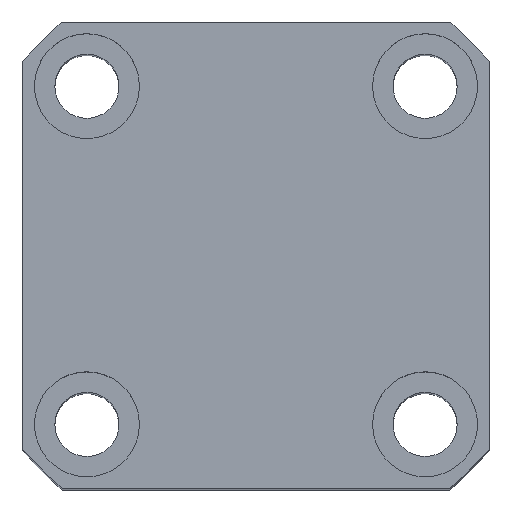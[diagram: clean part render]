
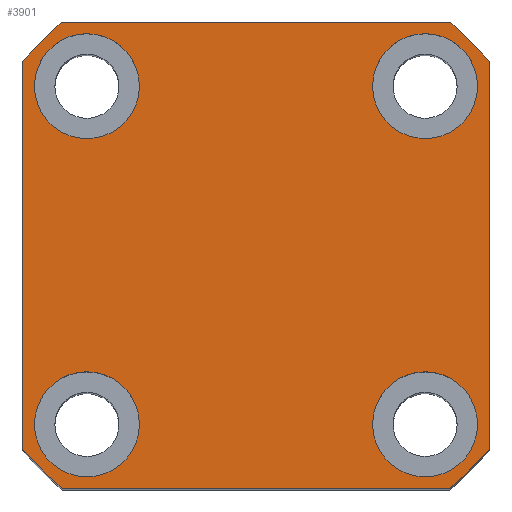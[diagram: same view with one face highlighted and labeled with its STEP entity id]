
A CAD part, top view. The second image highlights one B-rep face of the part: STEP entity #3901.
In plain terms, the highlighted planar face has unit normal (0, 0, 1).
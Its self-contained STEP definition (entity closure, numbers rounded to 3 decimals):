
#30 = EDGE_LOOP ( 'NONE', ( #7050, #4002, #10869, #6673, #14116, #13227, #10277, #10452 ) ) ;
#145 = AXIS2_PLACEMENT_3D ( 'NONE', #6800, #271, #1367 ) ;
#148 = DIRECTION ( 'NONE',  ( 1., 0., 0. ) ) ;
#271 = DIRECTION ( 'NONE',  ( 0., 0., 1. ) ) ;
#651 = CARTESIAN_POINT ( 'NONE',  ( -20., 29., 77.5 ) ) ;
#815 = CARTESIAN_POINT ( 'NONE',  ( 33.226, 40., 77.5 ) ) ;
#1367 = DIRECTION ( 'NONE',  ( 1., 0., 0. ) ) ;
#1674 = VERTEX_POINT ( 'NONE', #13961 ) ;
#1796 = VERTEX_POINT ( 'NONE', #2159 ) ;
#1919 = EDGE_CURVE ( 'NONE', #1674, #6936, #2082, .T. ) ;
#2082 = CIRCLE ( 'NONE', #3684, 52. ) ;
#2115 = EDGE_CURVE ( 'NONE', #6008, #6545, #7902, .T. ) ;
#2159 = CARTESIAN_POINT ( 'NONE',  ( -20., -29., 77.5 ) ) ;
#2246 = CARTESIAN_POINT ( 'NONE',  ( 29., 29., 77.5 ) ) ;
#2254 = AXIS2_PLACEMENT_3D ( 'NONE', #9962, #11073, #6592 ) ;
#2264 = EDGE_CURVE ( 'NONE', #1796, #4681, #7535, .T. ) ;
#2318 = FACE_BOUND ( 'NONE', #8102, .T. ) ;
#2394 = DIRECTION ( 'NONE',  ( 0., 0., 1. ) ) ;
#2474 = DIRECTION ( 'NONE',  ( 0., 0., 1. ) ) ;
#2490 = FACE_OUTER_BOUND ( 'NONE', #30, .T. ) ;
#2617 = CIRCLE ( 'NONE', #3081, 9. ) ;
#2656 = AXIS2_PLACEMENT_3D ( 'NONE', #13620, #12658, #4850 ) ;
#2672 = EDGE_CURVE ( 'NONE', #3773, #6008, #9100, .T. ) ;
#2713 = EDGE_CURVE ( 'NONE', #9240, #14058, #9440, .T. ) ;
#2776 = CIRCLE ( 'NONE', #2656, 9. ) ;
#2801 = CIRCLE ( 'NONE', #145, 52. ) ;
#2953 = CARTESIAN_POINT ( 'NONE',  ( -29., 29., 77.5 ) ) ;
#3014 = CIRCLE ( 'NONE', #11116, 9. ) ;
#3049 = DIRECTION ( 'NONE',  ( 1., 0., 0. ) ) ;
#3081 = AXIS2_PLACEMENT_3D ( 'NONE', #13776, #12586, #6106 ) ;
#3176 = CARTESIAN_POINT ( 'NONE',  ( -40., 33.226, 77.5 ) ) ;
#3356 = DIRECTION ( 'NONE',  ( 1., 0., 0. ) ) ;
#3450 = EDGE_CURVE ( 'NONE', #5843, #9478, #2617, .T. ) ;
#3496 = CARTESIAN_POINT ( 'NONE',  ( -40., -33.226, 77.5 ) ) ;
#3684 = AXIS2_PLACEMENT_3D ( 'NONE', #8952, #2394, #5783 ) ;
#3773 = VERTEX_POINT ( 'NONE', #5655 ) ;
#3813 = AXIS2_PLACEMENT_3D ( 'NONE', #14181, #6685, #148 ) ;
#3821 = CARTESIAN_POINT ( 'NONE',  ( -29., 29., 77.5 ) ) ;
#3901 = ADVANCED_FACE ( 'NONE', ( #2318, #4545, #9685, #11425, #2490 ), #13484, .T. ) ;
#4002 = ORIENTED_EDGE ( 'NONE', *, *, #9333, .T. ) ;
#4120 = VECTOR ( 'NONE', #6761, 1000. ) ;
#4151 = CIRCLE ( 'NONE', #4554, 52. ) ;
#4487 = CARTESIAN_POINT ( 'NONE',  ( -33.226, -40., 77.5 ) ) ;
#4545 = FACE_BOUND ( 'NONE', #7838, .T. ) ;
#4554 = AXIS2_PLACEMENT_3D ( 'NONE', #9028, #2474, #6796 ) ;
#4669 = EDGE_CURVE ( 'NONE', #11411, #11864, #13619, .T. ) ;
#4681 = VERTEX_POINT ( 'NONE', #10706 ) ;
#4771 = EDGE_CURVE ( 'NONE', #9478, #5843, #5216, .T. ) ;
#4850 = DIRECTION ( 'NONE',  ( 1., 0., 0. ) ) ;
#5100 = DIRECTION ( 'NONE',  ( 1., 0., 0. ) ) ;
#5204 = ORIENTED_EDGE ( 'NONE', *, *, #2264, .F. ) ;
#5216 = CIRCLE ( 'NONE', #2254, 9. ) ;
#5254 = EDGE_CURVE ( 'NONE', #6936, #3773, #10197, .T. ) ;
#5331 = VERTEX_POINT ( 'NONE', #13700 ) ;
#5410 = CARTESIAN_POINT ( 'NONE',  ( -33.226, -40., 77.5 ) ) ;
#5444 = ORIENTED_EDGE ( 'NONE', *, *, #4669, .F. ) ;
#5525 = EDGE_LOOP ( 'NONE', ( #8978, #13035 ) ) ;
#5655 = CARTESIAN_POINT ( 'NONE',  ( -33.226, 40., 77.5 ) ) ;
#5783 = DIRECTION ( 'NONE',  ( 1., 0., 0. ) ) ;
#5843 = VERTEX_POINT ( 'NONE', #13821 ) ;
#5864 = DIRECTION ( 'NONE',  ( 1., 0., 0. ) ) ;
#5868 = ORIENTED_EDGE ( 'NONE', *, *, #11757, .F. ) ;
#5904 = DIRECTION ( 'NONE',  ( 1., 0., 0. ) ) ;
#6008 = VERTEX_POINT ( 'NONE', #11819 ) ;
#6106 = DIRECTION ( 'NONE',  ( 1., 0., 0. ) ) ;
#6545 = VERTEX_POINT ( 'NONE', #3496 ) ;
#6592 = DIRECTION ( 'NONE',  ( 1., 0., 0. ) ) ;
#6673 = ORIENTED_EDGE ( 'NONE', *, *, #5254, .T. ) ;
#6685 = DIRECTION ( 'NONE',  ( 0., 0., 1. ) ) ;
#6740 = VERTEX_POINT ( 'NONE', #8600 ) ;
#6761 = DIRECTION ( 'NONE',  ( 1., 0., 0. ) ) ;
#6796 = DIRECTION ( 'NONE',  ( 1., 0., 0. ) ) ;
#6800 = CARTESIAN_POINT ( 'NONE',  ( 0., 0., 77.5 ) ) ;
#6901 = EDGE_CURVE ( 'NONE', #6545, #9240, #2801, .T. ) ;
#6936 = VERTEX_POINT ( 'NONE', #815 ) ;
#7033 = DIRECTION ( 'NONE',  ( -1., 0., 0. ) ) ;
#7050 = ORIENTED_EDGE ( 'NONE', *, *, #7450, .T. ) ;
#7265 = VECTOR ( 'NONE', #7033, 1000. ) ;
#7271 = EDGE_LOOP ( 'NONE', ( #5868, #5444 ) ) ;
#7373 = VERTEX_POINT ( 'NONE', #651 ) ;
#7385 = AXIS2_PLACEMENT_3D ( 'NONE', #2246, #10015, #3356 ) ;
#7450 = EDGE_CURVE ( 'NONE', #14058, #5331, #4151, .T. ) ;
#7524 = CARTESIAN_POINT ( 'NONE',  ( 20., 29., 77.5 ) ) ;
#7535 = CIRCLE ( 'NONE', #3813, 9. ) ;
#7627 = CIRCLE ( 'NONE', #14020, 9. ) ;
#7838 = EDGE_LOOP ( 'NONE', ( #5204, #10500 ) ) ;
#7888 = AXIS2_PLACEMENT_3D ( 'NONE', #11351, #9266, #5864 ) ;
#7902 = LINE ( 'NONE', #3176, #8238 ) ;
#8102 = EDGE_LOOP ( 'NONE', ( #11328, #9349 ) ) ;
#8146 = CARTESIAN_POINT ( 'NONE',  ( -33.226, 40., 77.5 ) ) ;
#8238 = VECTOR ( 'NONE', #8624, 1000. ) ;
#8600 = CARTESIAN_POINT ( 'NONE',  ( -38., 29., 77.5 ) ) ;
#8624 = DIRECTION ( 'NONE',  ( 0., -1., 0. ) ) ;
#8794 = CARTESIAN_POINT ( 'NONE',  ( 0., 0., 77.5 ) ) ;
#8840 = DIRECTION ( 'NONE',  ( 0., 0., 1. ) ) ;
#8952 = CARTESIAN_POINT ( 'NONE',  ( 0., 0., 77.5 ) ) ;
#8978 = ORIENTED_EDGE ( 'NONE', *, *, #10064, .F. ) ;
#9028 = CARTESIAN_POINT ( 'NONE',  ( 0., 0., 77.5 ) ) ;
#9066 = CARTESIAN_POINT ( 'NONE',  ( 0., 0., 77.5 ) ) ;
#9100 = CIRCLE ( 'NONE', #11729, 52. ) ;
#9240 = VERTEX_POINT ( 'NONE', #5410 ) ;
#9266 = DIRECTION ( 'NONE',  ( 0., 0., 1. ) ) ;
#9333 = EDGE_CURVE ( 'NONE', #5331, #1674, #10488, .T. ) ;
#9349 = ORIENTED_EDGE ( 'NONE', *, *, #4771, .F. ) ;
#9440 = LINE ( 'NONE', #4487, #4120 ) ;
#9478 = VERTEX_POINT ( 'NONE', #13614 ) ;
#9548 = CARTESIAN_POINT ( 'NONE',  ( 38., 29., 77.5 ) ) ;
#9685 = FACE_BOUND ( 'NONE', #5525, .T. ) ;
#9962 = CARTESIAN_POINT ( 'NONE',  ( 29., -29., 77.5 ) ) ;
#9999 = CARTESIAN_POINT ( 'NONE',  ( 33.226, -40., 77.5 ) ) ;
#10015 = DIRECTION ( 'NONE',  ( 0., 0., 1. ) ) ;
#10064 = EDGE_CURVE ( 'NONE', #7373, #6740, #7627, .T. ) ;
#10197 = LINE ( 'NONE', #8146, #7265 ) ;
#10277 = ORIENTED_EDGE ( 'NONE', *, *, #6901, .T. ) ;
#10452 = ORIENTED_EDGE ( 'NONE', *, *, #2713, .T. ) ;
#10488 = LINE ( 'NONE', #10946, #12363 ) ;
#10500 = ORIENTED_EDGE ( 'NONE', *, *, #12756, .F. ) ;
#10706 = CARTESIAN_POINT ( 'NONE',  ( -38., -29., 77.5 ) ) ;
#10815 = CIRCLE ( 'NONE', #7888, 9. ) ;
#10869 = ORIENTED_EDGE ( 'NONE', *, *, #1919, .T. ) ;
#10946 = CARTESIAN_POINT ( 'NONE',  ( 40., 33.226, 77.5 ) ) ;
#11073 = DIRECTION ( 'NONE',  ( 0., 0., 1. ) ) ;
#11116 = AXIS2_PLACEMENT_3D ( 'NONE', #2953, #13830, #3049 ) ;
#11202 = EDGE_CURVE ( 'NONE', #6740, #7373, #3014, .T. ) ;
#11328 = ORIENTED_EDGE ( 'NONE', *, *, #3450, .F. ) ;
#11351 = CARTESIAN_POINT ( 'NONE',  ( -29., -29., 77.5 ) ) ;
#11411 = VERTEX_POINT ( 'NONE', #7524 ) ;
#11425 = FACE_BOUND ( 'NONE', #7271, .T. ) ;
#11729 = AXIS2_PLACEMENT_3D ( 'NONE', #8794, #8840, #12250 ) ;
#11757 = EDGE_CURVE ( 'NONE', #11864, #11411, #2776, .T. ) ;
#11819 = CARTESIAN_POINT ( 'NONE',  ( -40., 33.226, 77.5 ) ) ;
#11864 = VERTEX_POINT ( 'NONE', #9548 ) ;
#12040 = DIRECTION ( 'NONE',  ( 0., 1., 0. ) ) ;
#12250 = DIRECTION ( 'NONE',  ( 1., 0., 0. ) ) ;
#12346 = AXIS2_PLACEMENT_3D ( 'NONE', #9066, #13434, #5904 ) ;
#12363 = VECTOR ( 'NONE', #12040, 1000. ) ;
#12586 = DIRECTION ( 'NONE',  ( 0., 0., 1. ) ) ;
#12593 = DIRECTION ( 'NONE',  ( 0., 0., 1. ) ) ;
#12658 = DIRECTION ( 'NONE',  ( 0., 0., 1. ) ) ;
#12756 = EDGE_CURVE ( 'NONE', #4681, #1796, #10815, .T. ) ;
#13035 = ORIENTED_EDGE ( 'NONE', *, *, #11202, .F. ) ;
#13227 = ORIENTED_EDGE ( 'NONE', *, *, #2115, .T. ) ;
#13434 = DIRECTION ( 'NONE',  ( 0., 0., 1. ) ) ;
#13484 = PLANE ( 'NONE',  #12346 ) ;
#13614 = CARTESIAN_POINT ( 'NONE',  ( 20., -29., 77.5 ) ) ;
#13619 = CIRCLE ( 'NONE', #7385, 9. ) ;
#13620 = CARTESIAN_POINT ( 'NONE',  ( 29., 29., 77.5 ) ) ;
#13700 = CARTESIAN_POINT ( 'NONE',  ( 40., -33.226, 77.5 ) ) ;
#13776 = CARTESIAN_POINT ( 'NONE',  ( 29., -29., 77.5 ) ) ;
#13821 = CARTESIAN_POINT ( 'NONE',  ( 38., -29., 77.5 ) ) ;
#13830 = DIRECTION ( 'NONE',  ( 0., 0., 1. ) ) ;
#13961 = CARTESIAN_POINT ( 'NONE',  ( 40., 33.226, 77.5 ) ) ;
#14020 = AXIS2_PLACEMENT_3D ( 'NONE', #3821, #12593, #5100 ) ;
#14058 = VERTEX_POINT ( 'NONE', #9999 ) ;
#14116 = ORIENTED_EDGE ( 'NONE', *, *, #2672, .T. ) ;
#14181 = CARTESIAN_POINT ( 'NONE',  ( -29., -29., 77.5 ) ) ;
